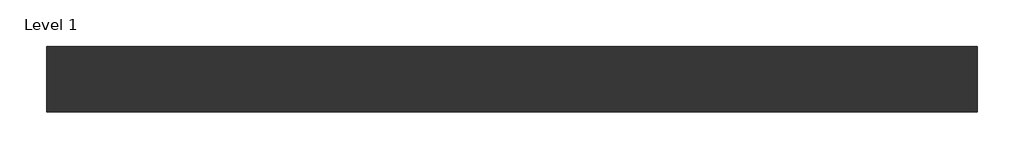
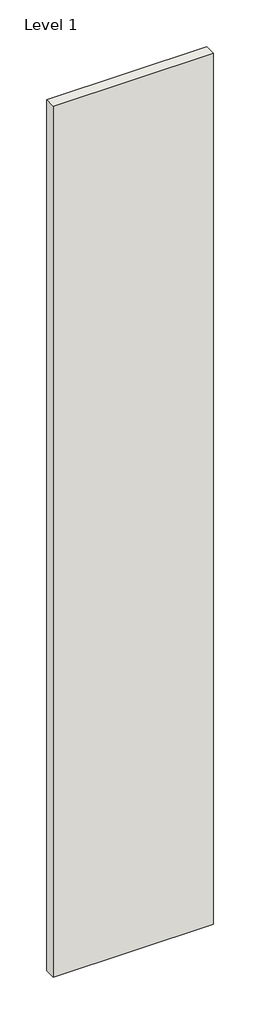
# One storey: 1 wall.
"""IFC4 building model written with IfcOpenShell, lengths in millimetres."""

from ifc_helpers import new_model, si_unit, origin, origin_with_axes, place, context, project, spatial, polyline, outline, extrude, element, save

model = new_model("IFC4")

# Units and contexts
model_context = context("Model", 3, world=origin())
ifc_project = project(units=[si_unit("LENGTHUNIT", "METRE", prefix="MILLI")], contexts=[model_context])

# Site, building, storey
site = spatial("IfcSite", under=ifc_project)
building = spatial("IfcBuilding", under=site)
storey = spatial("IfcBuildingStorey", under=building, Name="Level 1", Elevation=0.0)

# Wall
placement = place(None, origin())
element("IfcWall", 1, ObjectType="Trasdosado Placo® 85(70) BA15 + 70LM c/400", at=placement, inside=storey, context=model_context, shape_type="SweptSolid", body=[
    extrude(outline(polyline([(-27296.4711674, -81742.3970389), (-28496.4711674, -81742.3970389), (-28496.4711674, -81657.3970389), (-27296.4711674, -81657.3970389), (-27296.4711674, -81742.3970389)])), origin_with_axes(), (0.0, 0.0, 1.0), 6900.0),
])

save(model, "model.ifc")
